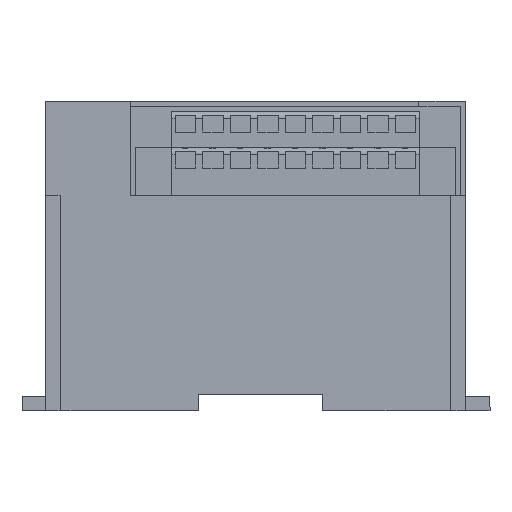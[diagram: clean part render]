
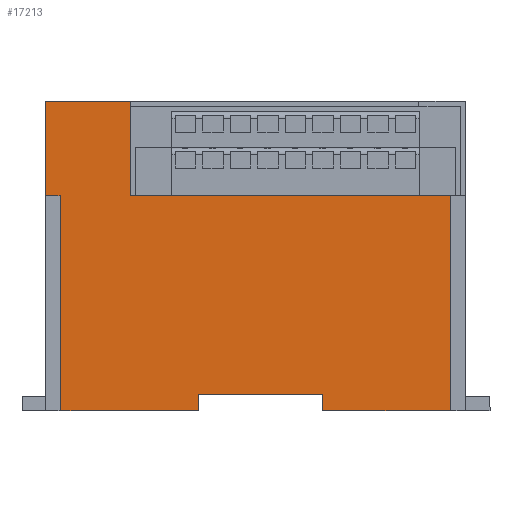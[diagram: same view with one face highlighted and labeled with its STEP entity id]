
A CAD part, top view. The second image highlights one B-rep face of the part: STEP entity #17213.
In plain terms, the highlighted planar face has unit normal (0, 0, 1).
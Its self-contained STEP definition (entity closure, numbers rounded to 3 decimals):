
#31 = VERTEX_POINT ( 'NONE', #1028 ) ;
#93 = LINE ( 'NONE', #6431, #10682 ) ;
#130 = ORIENTED_EDGE ( 'NONE', *, *, #10446, .F. ) ;
#147 = FACE_OUTER_BOUND ( 'NONE', #8480, .T. ) ;
#526 = VECTOR ( 'NONE', #15699, 1000. ) ;
#578 = AXIS2_PLACEMENT_3D ( 'NONE', #16821, #3220, #15328 ) ;
#807 = VERTEX_POINT ( 'NONE', #15660 ) ;
#944 = EDGE_CURVE ( 'NONE', #31, #18930, #1741, .T. ) ;
#991 = LINE ( 'NONE', #17577, #3683 ) ;
#1028 = CARTESIAN_POINT ( 'NONE',  ( 88.635, -98.639, 95.075 ) ) ;
#1164 = LINE ( 'NONE', #2553, #12460 ) ;
#1692 = EDGE_CURVE ( 'NONE', #13865, #5211, #17081, .T. ) ;
#1741 = LINE ( 'NONE', #3337, #14791 ) ;
#1986 = CARTESIAN_POINT ( 'NONE',  ( 50.635, -98.639, 95.075 ) ) ;
#2192 = VERTEX_POINT ( 'NONE', #13041 ) ;
#2205 = CARTESIAN_POINT ( 'NONE',  ( 50.635, -94.039, 95.075 ) ) ;
#2324 = DIRECTION ( 'NONE',  ( 0., 1., 0. ) ) ;
#2553 = CARTESIAN_POINT ( 'NONE',  ( -25.365, -98.639, 95.075 ) ) ;
#3070 = CARTESIAN_POINT ( 'NONE',  ( 50.635, -94.039, 95.075 ) ) ;
#3165 = CARTESIAN_POINT ( 'NONE',  ( -25.365, -38.139, 95.075 ) ) ;
#3220 = DIRECTION ( 'NONE',  ( 0., 0., -1. ) ) ;
#3337 = CARTESIAN_POINT ( 'NONE',  ( 88.635, -98.639, 95.075 ) ) ;
#3479 = DIRECTION ( 'NONE',  ( 0., 1., 0. ) ) ;
#3613 = CARTESIAN_POINT ( 'NONE',  ( 88.635, -38.139, 95.075 ) ) ;
#3683 = VECTOR ( 'NONE', #14684, 1000. ) ;
#4623 = CARTESIAN_POINT ( 'NONE',  ( -27.365, -11.639, 95.075 ) ) ;
#4698 = PLANE ( 'NONE',  #578 ) ;
#4734 = LINE ( 'NONE', #15925, #9214 ) ;
#4938 = VERTEX_POINT ( 'NONE', #2205 ) ;
#5211 = VERTEX_POINT ( 'NONE', #7732 ) ;
#5811 = VECTOR ( 'NONE', #12003, 1000. ) ;
#6045 = ORIENTED_EDGE ( 'NONE', *, *, #8344, .F. ) ;
#6087 = DIRECTION ( 'NONE',  ( -1., 0., 0. ) ) ;
#6098 = LINE ( 'NONE', #4623, #13544 ) ;
#6142 = CARTESIAN_POINT ( 'NONE',  ( -3.365, -38.139, 95.075 ) ) ;
#6194 = EDGE_CURVE ( 'NONE', #18743, #10955, #1164, .T. ) ;
#6431 = CARTESIAN_POINT ( 'NONE',  ( 15.635, -94.039, 95.075 ) ) ;
#6939 = EDGE_CURVE ( 'NONE', #807, #2192, #15892, .T. ) ;
#7211 = DIRECTION ( 'NONE',  ( 0., 1., 0. ) ) ;
#7256 = ORIENTED_EDGE ( 'NONE', *, *, #6194, .F. ) ;
#7406 = LINE ( 'NONE', #14663, #17142 ) ;
#7490 = EDGE_CURVE ( 'NONE', #13865, #10955, #7406, .T. ) ;
#7525 = DIRECTION ( 'NONE',  ( -1., 0., 0. ) ) ;
#7732 = CARTESIAN_POINT ( 'NONE',  ( -27.365, -11.639, 95.075 ) ) ;
#7834 = CARTESIAN_POINT ( 'NONE',  ( -27.365, -38.139, 95.075 ) ) ;
#8344 = EDGE_CURVE ( 'NONE', #15671, #18743, #10219, .T. ) ;
#8480 = EDGE_LOOP ( 'NONE', ( #16534, #13525, #8648, #16737, #7256, #6045, #15146, #18044, #11025, #11370, #14995, #130 ) ) ;
#8648 = ORIENTED_EDGE ( 'NONE', *, *, #1692, .F. ) ;
#9082 = CARTESIAN_POINT ( 'NONE',  ( 15.635, -98.639, 95.075 ) ) ;
#9166 = VERTEX_POINT ( 'NONE', #3613 ) ;
#9214 = VECTOR ( 'NONE', #2324, 1000. ) ;
#9233 = LINE ( 'NONE', #6142, #5811 ) ;
#9555 = VERTEX_POINT ( 'NONE', #14209 ) ;
#10219 = LINE ( 'NONE', #17973, #14249 ) ;
#10446 = EDGE_CURVE ( 'NONE', #2192, #9166, #9233, .T. ) ;
#10682 = VECTOR ( 'NONE', #13683, 1000. ) ;
#10955 = VERTEX_POINT ( 'NONE', #3165 ) ;
#11025 = ORIENTED_EDGE ( 'NONE', *, *, #19275, .F. ) ;
#11370 = ORIENTED_EDGE ( 'NONE', *, *, #944, .F. ) ;
#12003 = DIRECTION ( 'NONE',  ( 1., 0., 0. ) ) ;
#12460 = VECTOR ( 'NONE', #7211, 1000. ) ;
#12712 = CARTESIAN_POINT ( 'NONE',  ( -27.365, -38.139, 95.075 ) ) ;
#13041 = CARTESIAN_POINT ( 'NONE',  ( -3.433, -38.139, 95.075 ) ) ;
#13225 = VECTOR ( 'NONE', #7525, 1000. ) ;
#13525 = ORIENTED_EDGE ( 'NONE', *, *, #16907, .F. ) ;
#13544 = VECTOR ( 'NONE', #16946, 1000. ) ;
#13683 = DIRECTION ( 'NONE',  ( 0., -1., 0. ) ) ;
#13865 = VERTEX_POINT ( 'NONE', #12712 ) ;
#14129 = VECTOR ( 'NONE', #3479, 1000. ) ;
#14209 = CARTESIAN_POINT ( 'NONE',  ( 15.635, -94.039, 95.075 ) ) ;
#14249 = VECTOR ( 'NONE', #16280, 1000. ) ;
#14663 = CARTESIAN_POINT ( 'NONE',  ( -27.365, -38.139, 95.075 ) ) ;
#14684 = DIRECTION ( 'NONE',  ( 0., 1., 0. ) ) ;
#14791 = VECTOR ( 'NONE', #6087, 1000. ) ;
#14995 = ORIENTED_EDGE ( 'NONE', *, *, #15248, .T. ) ;
#15146 = ORIENTED_EDGE ( 'NONE', *, *, #16541, .F. ) ;
#15248 = EDGE_CURVE ( 'NONE', #31, #9166, #991, .T. ) ;
#15328 = DIRECTION ( 'NONE',  ( -1., 0., 0. ) ) ;
#15660 = CARTESIAN_POINT ( 'NONE',  ( -3.433, -11.639, 95.075 ) ) ;
#15671 = VERTEX_POINT ( 'NONE', #9082 ) ;
#15699 = DIRECTION ( 'NONE',  ( 0., -1., 0. ) ) ;
#15892 = LINE ( 'NONE', #18882, #526 ) ;
#15925 = CARTESIAN_POINT ( 'NONE',  ( 50.635, -98.639, 95.075 ) ) ;
#16280 = DIRECTION ( 'NONE',  ( -1., 0., 0. ) ) ;
#16507 = EDGE_CURVE ( 'NONE', #4938, #9555, #18066, .T. ) ;
#16534 = ORIENTED_EDGE ( 'NONE', *, *, #6939, .F. ) ;
#16541 = EDGE_CURVE ( 'NONE', #9555, #15671, #93, .T. ) ;
#16737 = ORIENTED_EDGE ( 'NONE', *, *, #7490, .T. ) ;
#16821 = CARTESIAN_POINT ( 'NONE',  ( -59.365, -98.639, 95.075 ) ) ;
#16907 = EDGE_CURVE ( 'NONE', #5211, #807, #6098, .T. ) ;
#16946 = DIRECTION ( 'NONE',  ( 1., 0., 0. ) ) ;
#17081 = LINE ( 'NONE', #7834, #14129 ) ;
#17142 = VECTOR ( 'NONE', #17944, 1000. ) ;
#17213 = ADVANCED_FACE ( 'NONE', ( #147 ), #4698, .F. ) ;
#17577 = CARTESIAN_POINT ( 'NONE',  ( 88.635, -98.639, 95.075 ) ) ;
#17944 = DIRECTION ( 'NONE',  ( 1., 0., 0. ) ) ;
#17973 = CARTESIAN_POINT ( 'NONE',  ( 15.635, -98.639, 95.075 ) ) ;
#18044 = ORIENTED_EDGE ( 'NONE', *, *, #16507, .F. ) ;
#18066 = LINE ( 'NONE', #3070, #13225 ) ;
#18273 = CARTESIAN_POINT ( 'NONE',  ( -25.365, -98.639, 95.075 ) ) ;
#18743 = VERTEX_POINT ( 'NONE', #18273 ) ;
#18882 = CARTESIAN_POINT ( 'NONE',  ( -3.433, -13.06, 95.075 ) ) ;
#18930 = VERTEX_POINT ( 'NONE', #1986 ) ;
#19275 = EDGE_CURVE ( 'NONE', #18930, #4938, #4734, .T. ) ;
